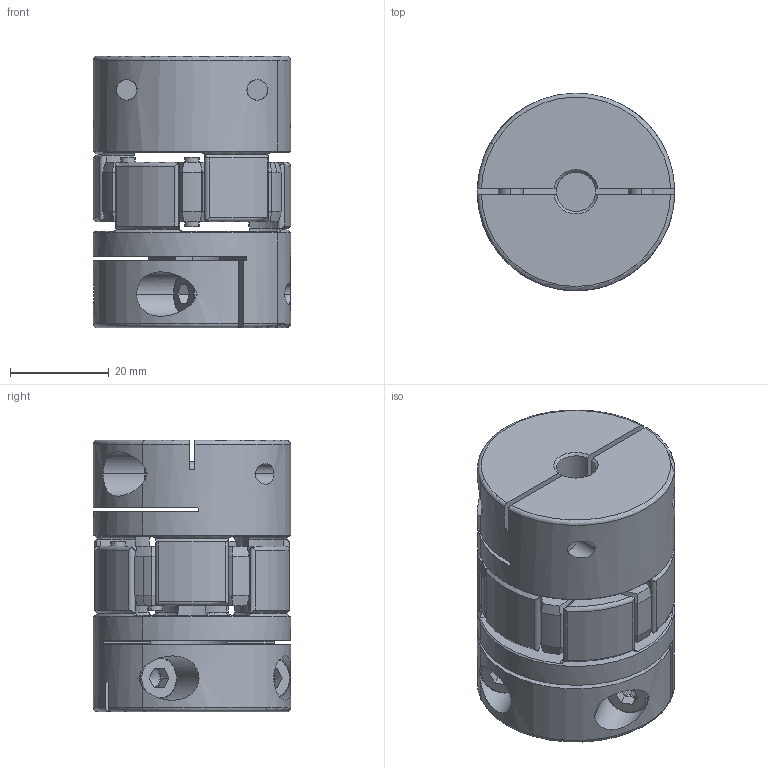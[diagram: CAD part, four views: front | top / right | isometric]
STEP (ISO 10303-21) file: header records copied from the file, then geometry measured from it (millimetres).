
FILE_DESCRIPTION (( 'STEP AP203' ), '1' );
FILE_NAME ('SJCA-40C-8X18_203.STEP', '2013-02-21T08:08:39', ( '' ), ( '' ), 'SwSTEP 2.0', 'SolidWorks 2012', '' );
FILE_SCHEMA (( 'CONFIG_CONTROL_DESIGN' ));
Length unit declared in the file: millimetre
Products named in the file (1): SJCA-40C-8X18_203
Bounding box: 40 x 40 x 55 mm (x, y, z)
Volume: 51544 mm3; surface area: 22245.2 mm2
Topology: 1 solids, 1 shells, 450 faces, 1168 edges, 716 vertices
Faces by surface type: cylinder 179, plane 110, cone 89, torus 72
Entity records: 14945 total; most frequent: CARTESIAN_POINT 3816, DIRECTION 2420, ORIENTED_EDGE 2320, EDGE_CURVE 1160, AXIS2_PLACEMENT_3D 1020, VERTEX_POINT 716, CIRCLE 569, EDGE_LOOP 486
